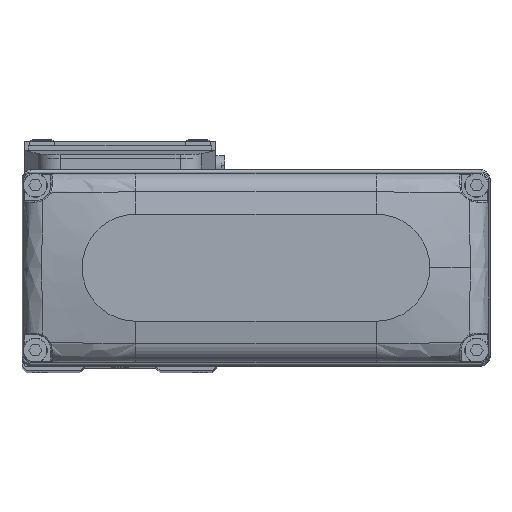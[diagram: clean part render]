
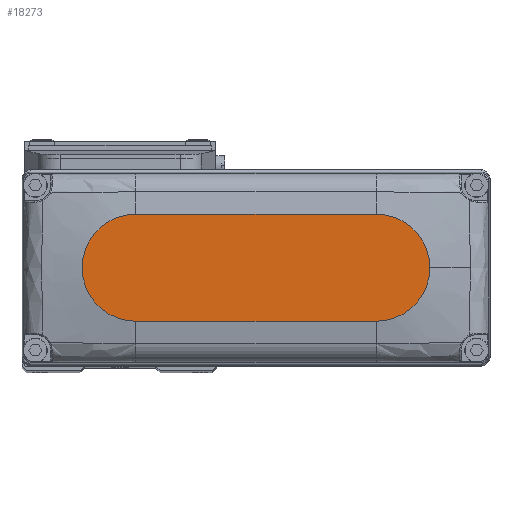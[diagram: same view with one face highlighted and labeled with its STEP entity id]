
A CAD part, top view. The second image highlights one B-rep face of the part: STEP entity #18273.
In plain terms, the highlighted planar face has unit normal (0, 0, 1).
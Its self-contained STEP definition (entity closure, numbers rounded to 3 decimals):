
#2966 = EDGE_CURVE ( 'NONE', #15310, #62881, #24544, .T. ) ;
#3898 = AXIS2_PLACEMENT_3D ( 'NONE', #19010, #42824, #66624 ) ;
#5261 = CARTESIAN_POINT ( 'NONE',  ( 27., -12., 25. ) ) ;
#8273 = DIRECTION ( 'NONE',  ( -1., 0., 0. ) ) ;
#14187 = EDGE_LOOP ( 'NONE', ( #64749, #41011, #16172, #39765, #54794 ) ) ;
#14966 = DIRECTION ( 'NONE',  ( 0., 0., 1. ) ) ;
#15310 = VERTEX_POINT ( 'NONE', #70075 ) ;
#16172 = ORIENTED_EDGE ( 'NONE', *, *, #2966, .T. ) ;
#16928 = DIRECTION ( 'NONE',  ( 0., 0., 1. ) ) ;
#18273 = ADVANCED_FACE ( 'NONE', ( #48677 ), #72488, .T. ) ;
#18933 = DIRECTION ( 'NONE',  ( 1., 0., 0. ) ) ;
#19010 = CARTESIAN_POINT ( 'NONE',  ( 0., 0., 25. ) ) ;
#23954 = EDGE_CURVE ( 'NONE', #64772, #29113, #37962, .T. ) ;
#24083 = CIRCLE ( 'NONE', #67710, 12. ) ;
#24544 = LINE ( 'NONE', #42495, #44737 ) ;
#29113 = VERTEX_POINT ( 'NONE', #31769 ) ;
#31769 = CARTESIAN_POINT ( 'NONE',  ( -27., 12., 25. ) ) ;
#34207 = AXIS2_PLACEMENT_3D ( 'NONE', #68455, #14966, #38780 ) ;
#37962 = LINE ( 'NONE', #61764, #51179 ) ;
#38780 = DIRECTION ( 'NONE',  ( 1., 0., 0. ) ) ;
#39765 = ORIENTED_EDGE ( 'NONE', *, *, #74684, .T. ) ;
#40735 = DIRECTION ( 'NONE',  ( 1., 0., 0. ) ) ;
#41011 = ORIENTED_EDGE ( 'NONE', *, *, #56412, .T. ) ;
#42495 = CARTESIAN_POINT ( 'NONE',  ( -27., -12., 25. ) ) ;
#42824 = DIRECTION ( 'NONE',  ( 0., 0., 1. ) ) ;
#44737 = VECTOR ( 'NONE', #66293, 1000. ) ;
#47687 = CARTESIAN_POINT ( 'NONE',  ( 27., 12., 25. ) ) ;
#48598 = CARTESIAN_POINT ( 'NONE',  ( 27., 0., 25. ) ) ;
#48677 = FACE_OUTER_BOUND ( 'NONE', #14187, .T. ) ;
#51179 = VECTOR ( 'NONE', #8273, 1000. ) ;
#54794 = ORIENTED_EDGE ( 'NONE', *, *, #59377, .T. ) ;
#55854 = CIRCLE ( 'NONE', #65823, 12. ) ;
#56412 = EDGE_CURVE ( 'NONE', #29113, #15310, #67861, .T. ) ;
#59377 = EDGE_CURVE ( 'NONE', #59553, #64772, #55854, .T. ) ;
#59553 = VERTEX_POINT ( 'NONE', #75109 ) ;
#61764 = CARTESIAN_POINT ( 'NONE',  ( -27., 12., 25. ) ) ;
#62881 = VERTEX_POINT ( 'NONE', #5261 ) ;
#64749 = ORIENTED_EDGE ( 'NONE', *, *, #23954, .T. ) ;
#64772 = VERTEX_POINT ( 'NONE', #47687 ) ;
#65823 = AXIS2_PLACEMENT_3D ( 'NONE', #48598, #72413, #18933 ) ;
#66293 = DIRECTION ( 'NONE',  ( 1., 0., 0. ) ) ;
#66624 = DIRECTION ( 'NONE',  ( 1., 0., 0. ) ) ;
#67710 = AXIS2_PLACEMENT_3D ( 'NONE', #70423, #16928, #40735 ) ;
#67861 = CIRCLE ( 'NONE', #34207, 12. ) ;
#68455 = CARTESIAN_POINT ( 'NONE',  ( -27., 0., 25. ) ) ;
#70075 = CARTESIAN_POINT ( 'NONE',  ( -27., -12., 25. ) ) ;
#70423 = CARTESIAN_POINT ( 'NONE',  ( 27., 0., 25. ) ) ;
#72413 = DIRECTION ( 'NONE',  ( 0., 0., 1. ) ) ;
#72488 = PLANE ( 'NONE',  #3898 ) ;
#74684 = EDGE_CURVE ( 'NONE', #62881, #59553, #24083, .T. ) ;
#75109 = CARTESIAN_POINT ( 'NONE',  ( 39., 0., 25. ) ) ;
